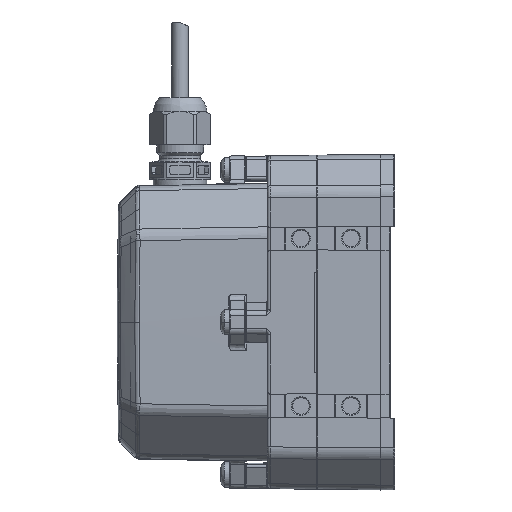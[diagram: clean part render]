
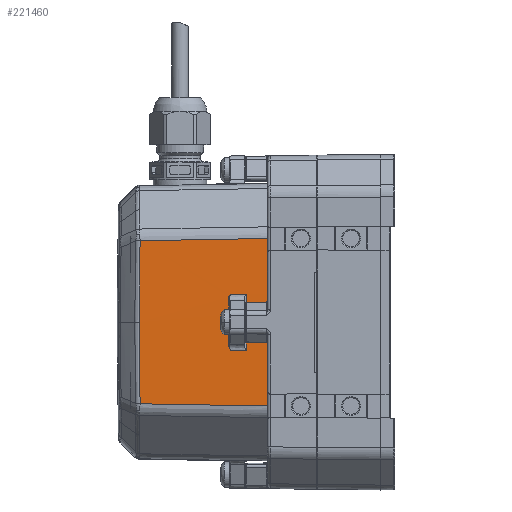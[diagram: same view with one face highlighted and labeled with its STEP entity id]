
A CAD part, front view. The second image highlights one B-rep face of the part: STEP entity #221460.
In plain terms, the highlighted conical face has half-angle 1 degrees and reference radius 2111.38 mm.
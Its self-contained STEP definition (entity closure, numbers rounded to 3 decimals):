
#2575=CARTESIAN_POINT('',(-14.8,2070.212,0.));
#2576=DIRECTION('',(1.,0.,0.));
#2577=DIRECTION('',(0.,-1.,0.012));
#2578=AXIS2_PLACEMENT_3D('',#2575,#2576,#2577);
#57457=CARTESIAN_POINT('',(-52.731,-40.698,
-24.32));
#57458=CARTESIAN_POINT('',(-48.518,-40.771,
-24.393));
#57459=CARTESIAN_POINT('',(-40.091,-40.916,
-24.539));
#57460=CARTESIAN_POINT('',(-27.448,-41.134,
-24.759));
#57461=CARTESIAN_POINT('',(-19.016,-41.28,
-24.906));
#57462=CARTESIAN_POINT('',(-14.8,-41.352,-24.979));
#57464=CARTESIAN_POINT('',(-52.731,-40.698,
-24.32));
#57465=CARTESIAN_POINT('',(-52.77,-40.728,
-21.617));
#57466=CARTESIAN_POINT('',(-52.836,-40.779,
-16.213));
#57467=CARTESIAN_POINT('',(-52.895,-40.825,
-8.103));
#57468=CARTESIAN_POINT('',(-52.908,-40.835,
-2.701));
#57469=CARTESIAN_POINT('',(-52.908,-40.835,
0.));
#57471=CARTESIAN_POINT('',(-52.908,-40.835,
0.));
#57472=CARTESIAN_POINT('',(-52.908,-40.835,
2.701));
#57473=CARTESIAN_POINT('',(-52.895,-40.825,
8.104));
#57474=CARTESIAN_POINT('',(-52.836,-40.779,
16.213));
#57475=CARTESIAN_POINT('',(-52.77,-40.728,
21.617));
#57476=CARTESIAN_POINT('',(-52.731,-40.698,
24.32));
#57478=CARTESIAN_POINT('',(-14.8,-41.352,24.979));
#57479=CARTESIAN_POINT('',(-19.016,-41.28,
24.906));
#57480=CARTESIAN_POINT('',(-27.448,-41.134,
24.759));
#57481=CARTESIAN_POINT('',(-40.091,-40.916,
24.539));
#57482=CARTESIAN_POINT('',(-48.518,-40.771,
24.393));
#57483=CARTESIAN_POINT('',(-52.731,-40.698,
24.32));
#57485=CARTESIAN_POINT('',(-26.297,2070.212,
0.));
#57486=DIRECTION('',(-1.,0.,0.));
#57487=DIRECTION('',(0.,-1.,-0.003));
#57488=AXIS2_PLACEMENT_3D('',#57485,#57486,#57487);
#57490=CARTESIAN_POINT('',(-25.903,-41.29,
-8.297));
#57491=CARTESIAN_POINT('',(-25.941,-41.29,
-8.219));
#57492=CARTESIAN_POINT('',(-26.012,-41.289,
-8.068));
#57493=CARTESIAN_POINT('',(-26.104,-41.288,
-7.855));
#57494=CARTESIAN_POINT('',(-26.179,-41.287,
-7.66));
#57495=CARTESIAN_POINT('',(-26.234,-41.287,
-7.481));
#57496=CARTESIAN_POINT('',(-26.272,-41.287,
-7.318));
#57497=CARTESIAN_POINT('',(-26.292,-41.287,
-7.172));
#57498=CARTESIAN_POINT('',(-26.297,-41.287,
-7.084));
#57499=CARTESIAN_POINT('',(-26.297,-41.288,
-7.043));
#57501=CARTESIAN_POINT('',(-21.091,2070.212,
0.));
#57502=DIRECTION('',(1.,0.,0.));
#57503=DIRECTION('',(0.,-1.,0.004));
#57504=AXIS2_PLACEMENT_3D('',#57501,#57502,#57503);
#57506=CARTESIAN_POINT('',(-26.297,-41.288,
7.043));
#57507=CARTESIAN_POINT('',(-26.297,-41.287,
7.084));
#57508=CARTESIAN_POINT('',(-26.292,-41.287,
7.172));
#57509=CARTESIAN_POINT('',(-26.271,-41.287,
7.319));
#57510=CARTESIAN_POINT('',(-26.234,-41.287,
7.483));
#57511=CARTESIAN_POINT('',(-26.178,-41.287,
7.662));
#57512=CARTESIAN_POINT('',(-26.103,-41.288,
7.857));
#57513=CARTESIAN_POINT('',(-26.011,-41.289,
8.069));
#57514=CARTESIAN_POINT('',(-25.94,-41.29,
8.219));
#57515=CARTESIAN_POINT('',(-25.903,-41.29,
8.297));
#57535=CARTESIAN_POINT('',(-52.731,-40.698,
-24.32));
#60110=CARTESIAN_POINT('',(-25.903,-41.29,
8.297));
#60117=CARTESIAN_POINT('',(-25.903,-41.29,
8.297));
#60118=CARTESIAN_POINT('',(-24.299,-41.318,
8.315));
#60119=CARTESIAN_POINT('',(-22.695,-41.346,
8.333));
#60120=CARTESIAN_POINT('',(-21.091,-41.374,
8.351));
#60225=CARTESIAN_POINT('',(-21.091,-41.374,
-8.351));
#60226=CARTESIAN_POINT('',(-22.695,-41.346,
-8.333));
#60227=CARTESIAN_POINT('',(-24.299,-41.318,
-8.315));
#60228=CARTESIAN_POINT('',(-25.903,-41.29,
-8.297));
#82692=VERTEX_POINT('',#57535);
#82693=VERTEX_POINT('',#57469);
#82694=VERTEX_POINT('',#57476);
#82871=CARTESIAN_POINT('',(-26.297,-41.288,
-7.043));
#82872=CARTESIAN_POINT('',(-26.297,-41.288,
7.043));
#82873=VERTEX_POINT('',#82871);
#82874=VERTEX_POINT('',#82872);
#82903=CARTESIAN_POINT('',(-21.091,-41.374,
8.351));
#82904=CARTESIAN_POINT('',(-21.091,-41.374,
-8.351));
#82905=VERTEX_POINT('',#82903);
#82906=VERTEX_POINT('',#82904);
#83054=VERTEX_POINT('',#60110);
#83055=VERTEX_POINT('',#57490);
#83130=CARTESIAN_POINT('',(-14.8,-41.352,24.979));
#83131=CARTESIAN_POINT('',(-14.8,-41.352,-24.979));
#83132=VERTEX_POINT('',#83130);
#83133=VERTEX_POINT('',#83131);
#221431=CARTESIAN_POINT('',(-33.854,2070.212,
0.));
#221432=DIRECTION('',(1.,0.,0.));
#221433=DIRECTION('',(0.,0.,1.));
#221434=AXIS2_PLACEMENT_3D('',#221431,#221432,#221433);
#221435=CONICAL_SURFACE('',#221434,2111.38,1.);
#221437=ORIENTED_EDGE('',*,*,#221436,.F.);
#221439=ORIENTED_EDGE('',*,*,#221438,.T.);
#221441=ORIENTED_EDGE('',*,*,#221440,.T.);
#221442=ORIENTED_EDGE('',*,*,#221409,.F.);
#221443=ORIENTED_EDGE('',*,*,#86639,.T.);
#221444=EDGE_LOOP('',(#221437,#221439,#221441,#221442,#221443));
#221445=FACE_OUTER_BOUND('',#221444,.F.);
#221447=ORIENTED_EDGE('',*,*,#221446,.F.);
#221449=ORIENTED_EDGE('',*,*,#221448,.F.);
#221451=ORIENTED_EDGE('',*,*,#221450,.F.);
#221453=ORIENTED_EDGE('',*,*,#221452,.F.);
#221455=ORIENTED_EDGE('',*,*,#221454,.F.);
#221457=ORIENTED_EDGE('',*,*,#221456,.F.);
#221458=EDGE_LOOP('',(#221447,#221449,#221451,#221453,#221455,#221457));
#221459=FACE_BOUND('',#221458,.F.);
#2579=CIRCLE('',#2578,2111.712);
#57463=B_SPLINE_CURVE_WITH_KNOTS('',3,(#57457,#57458,#57459,#57460,#57461,
#57462),.UNSPECIFIED.,.F.,.F.,(4,1,1,4),(0.,0.333,
0.667,1.),.UNSPECIFIED.);
#57470=B_SPLINE_CURVE_WITH_KNOTS('',3,(#57464,#57465,#57466,#57467,#57468,
#57469),.UNSPECIFIED.,.F.,.F.,(4,1,1,4),(0.,0.333,
0.667,1.),.UNSPECIFIED.);
#57477=B_SPLINE_CURVE_WITH_KNOTS('',3,(#57471,#57472,#57473,#57474,#57475,
#57476),.UNSPECIFIED.,.F.,.F.,(4,1,1,4),(0.,0.333,
0.667,1.),.UNSPECIFIED.);
#57484=B_SPLINE_CURVE_WITH_KNOTS('',3,(#57478,#57479,#57480,#57481,#57482,
#57483),.UNSPECIFIED.,.F.,.F.,(4,1,1,4),(0.,0.333,
0.667,1.),.UNSPECIFIED.);
#57489=CIRCLE('',#57488,2111.512);
#57500=B_SPLINE_CURVE_WITH_KNOTS('',3,(#57490,#57491,#57492,#57493,#57494,
#57495,#57496,#57497,#57498,#57499),.UNSPECIFIED.,.F.,.F.,(4,1,1,1,1,1,1,4),(
0.,0.143,0.286,0.429,0.571,
0.714,0.857,1.),.UNSPECIFIED.);
#57505=CIRCLE('',#57504,2111.603);
#57516=B_SPLINE_CURVE_WITH_KNOTS('',3,(#57506,#57507,#57508,#57509,#57510,
#57511,#57512,#57513,#57514,#57515),.UNSPECIFIED.,.F.,.F.,(4,1,1,1,1,1,1,4),(
0.,0.143,0.286,0.429,0.571,
0.714,0.857,1.),.UNSPECIFIED.);
#60121=B_SPLINE_CURVE_WITH_KNOTS('',3,(#60117,#60118,#60119,#60120),
.UNSPECIFIED.,.F.,.F.,(4,4),(0.,1.),.UNSPECIFIED.);
#60229=B_SPLINE_CURVE_WITH_KNOTS('',3,(#60225,#60226,#60227,#60228),
.UNSPECIFIED.,.F.,.F.,(4,4),(0.,1.),.UNSPECIFIED.);
#86639=EDGE_CURVE('',#83132,#83133,#2579,.T.);
#221409=EDGE_CURVE('',#83132,#82694,#57484,.T.);
#221436=EDGE_CURVE('',#82692,#83133,#57463,.T.);
#221438=EDGE_CURVE('',#82692,#82693,#57470,.T.);
#221440=EDGE_CURVE('',#82693,#82694,#57477,.T.);
#221446=EDGE_CURVE('',#82873,#82874,#57489,.T.);
#221448=EDGE_CURVE('',#83055,#82873,#57500,.T.);
#221450=EDGE_CURVE('',#82906,#83055,#60229,.T.);
#221452=EDGE_CURVE('',#82905,#82906,#57505,.T.);
#221454=EDGE_CURVE('',#83054,#82905,#60121,.T.);
#221456=EDGE_CURVE('',#82874,#83054,#57516,.T.);
#221460=ADVANCED_FACE('',(#221445,#221459),#221435,.T.);
